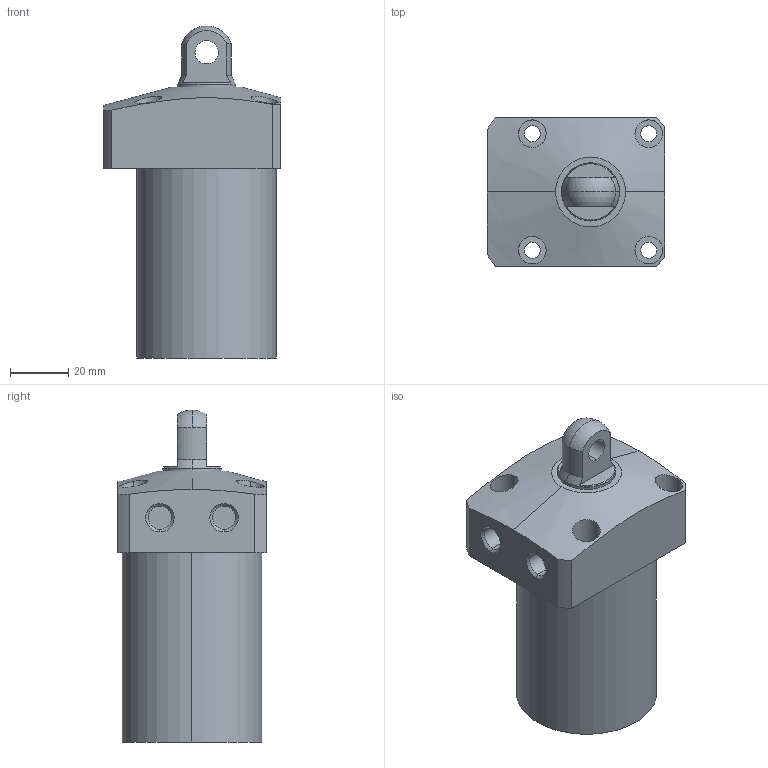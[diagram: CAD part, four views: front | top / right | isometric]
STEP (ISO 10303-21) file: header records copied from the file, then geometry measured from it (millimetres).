
FILE_DESCRIPTION (( 'STEP AP203' ), '1' );
FILE_NAME ('CLL-0480-CP-055.STEP', '2017-05-09T02:50:52', ( '' ), ( '' ), 'SwSTEP 2.0', 'SolidWorks 2015', '' );
FILE_SCHEMA (( 'CONFIG_CONTROL_DESIGN' ));
Length unit declared in the file: millimetre
Products named in the file (1): CLL-0480-CP-055
Bounding box: 61 x 51 x 114 mm (x, y, z)
Volume: 193291.7 mm3; surface area: 24489.7 mm2
Topology: 1 solids, 1 shells, 67 faces, 157 edges, 103 vertices
Faces by surface type: cylinder 35, plane 22, cone 8, sphere 2
Entity records: 2360 total; most frequent: CARTESIAN_POINT 682, DIRECTION 351, ORIENTED_EDGE 314, EDGE_CURVE 157, AXIS2_PLACEMENT_3D 146, VERTEX_POINT 103, EDGE_LOOP 88, CIRCLE 78
